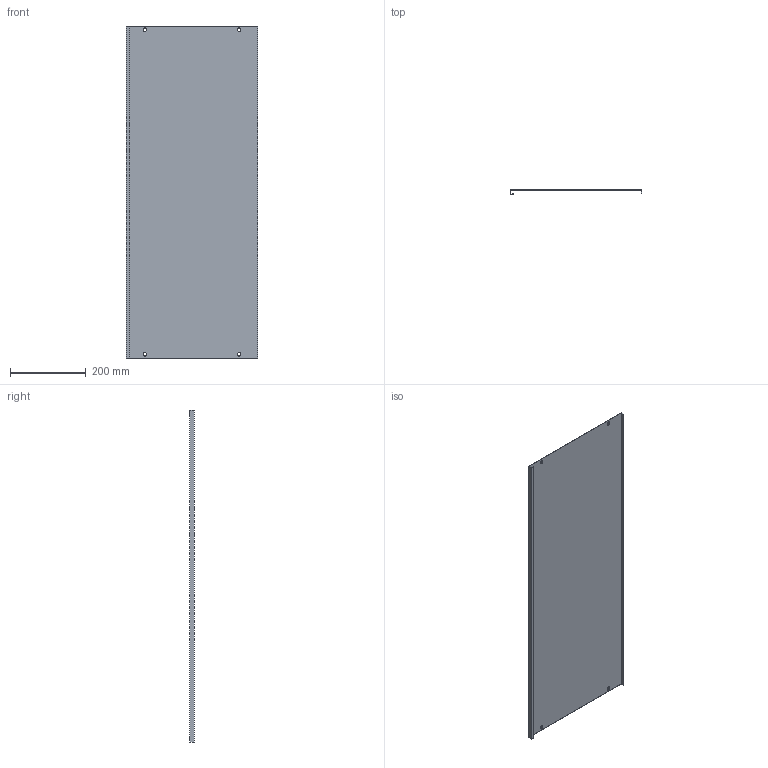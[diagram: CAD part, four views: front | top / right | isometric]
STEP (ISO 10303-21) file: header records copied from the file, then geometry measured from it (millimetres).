
FILE_DESCRIPTION (( 'STEP AP214' ), '1' );
FILE_NAME ('FO-00-PVS-035-100 Ïëàñòðîí ãëóõîé âíóòðåííèé 350õ1000.STEP', '2025-08-26T09:55:31', ( '' ), ( '' ), 'SwSTEP 2.0', 'SolidWorks 2023', '' );
FILE_SCHEMA (( 'AUTOMOTIVE_DESIGN' ));
Length unit declared in the file: millimetre
Products named in the file (1): FO-00-PVS-035-100 Пластрон глухой внутренний 350х1000
Bounding box: 348 x 12.5 x 879 mm (x, y, z)
Volume: 492762.1 mm3; surface area: 660943.1 mm2
Topology: 1 solids, 1 shells, 42 faces, 120 edges, 80 vertices
Faces by surface type: plane 30, cylinder 12
Entity records: 1407 total; most frequent: CARTESIAN_POINT 243, ORIENTED_EDGE 240, DIRECTION 230, EDGE_CURVE 120, LINE 96, VECTOR 96, VERTEX_POINT 80, AXIS2_PLACEMENT_3D 67
